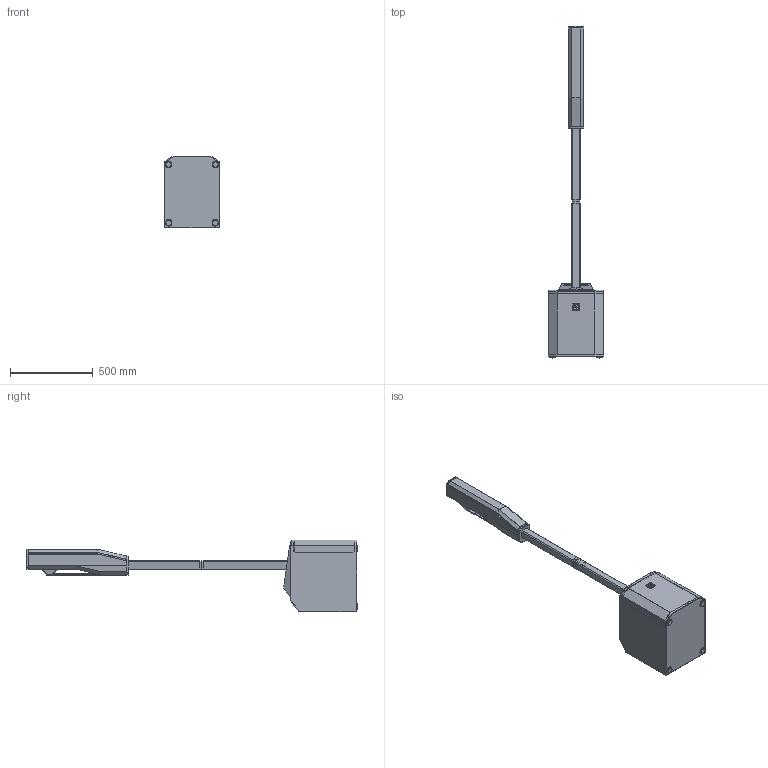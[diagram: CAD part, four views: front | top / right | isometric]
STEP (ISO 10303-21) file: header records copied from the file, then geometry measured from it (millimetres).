
FILE_DESCRIPTION (( 'STEP AP214' ), '1' );
FILE_NAME ('EVOLVE 30M 3D CAD.STEP', '2022-07-25T16:17:47', ( '' ), ( '' ), 'SwSTEP 2.0', 'SolidWorks 2021', '' );
FILE_SCHEMA (( 'AUTOMOTIVE_DESIGN' ));
Length unit declared in the file: millimetre
Products named in the file (26): Evolve 30M Top Cover; Evolve 30M Subwoofer Cabinet; Evolve 30M Amp Panel; Evolve 30M Rubber Foot; Evolve 30M EV Logo; Evolve 30M Bottom Cover; Evolve 30M Subwoofer Grille Assembly; Evolve 30M Short Pole Cover A; Evolve 30M Sub Cover Assembly; Evolve 30M Column Handle; Evolve 30M Grille; Evolve 30M Sub Handle; Evolve 30M Long Pole Cover B; Evolve 30M Subwoofer Grille; Evolve 30M Rear Enclosure; Evolve 30M Subwoofer; Evolve 30M Long Pole; Evolve 30M Sub Top Cover; Evolve 30M Long Pole Cover A; Evolve 30M Column Speaker; EVOLVE 30M 3D CAD; Evolve 30M Short Pole; Evolve 30M Amplifier; Evolve 30M Pole Assembly; Evolve 30M Short Pole Cover B; Evolve 30M Sub Handle Cover
Assembly tree (28 placements, depth 4):
  EVOLVE 30M 3D CAD
    Evolve 30M Subwoofer
      Evolve 30M Sub Cover Assembly
        Evolve 30M Sub Top Cover
        Evolve 30M Sub Handle Cover
        Evolve 30M Sub Handle
      Evolve 30M Subwoofer Grille Assembly
        Evolve 30M EV Logo
        Evolve 30M Subwoofer Grille
      Evolve 30M Amplifier
        Evolve 30M Amp Panel
      Evolve 30M Subwoofer Cabinet
      Evolve 30M Rubber Foot  x4
    Evolve 30M Pole Assembly
      Evolve 30M Short Pole Cover A
      Evolve 30M Short Pole
      Evolve 30M Short Pole Cover B
      Evolve 30M Long Pole
      Evolve 30M Long Pole Cover B
      Evolve 30M Long Pole Cover A
    Evolve 30M Column Speaker
      Evolve 30M Column Handle
      Evolve 30M Bottom Cover
      Evolve 30M Rear Enclosure
      Evolve 30M Grille
      Evolve 30M Top Cover
Bounding box: 332 x 1999.6 x 432 mm (x, y, z)
Volume: 24396088.3 mm3; surface area: 2995723.9 mm2
Topology: 22 solids, 22 shells, 2024 faces, 5191 edges, 3244 vertices
Faces by surface type: plane 1069, cylinder 411, bspline 357, cone 113, sphere 46, torus 28
Entity records: 82043 total; most frequent: CARTESIAN_POINT 37156, ORIENTED_EDGE 10266, DIRECTION 7301, EDGE_CURVE 5133, VERTEX_POINT 3226, VECTOR 2599, LINE 2599, AXIS2_PLACEMENT_3D 2351
